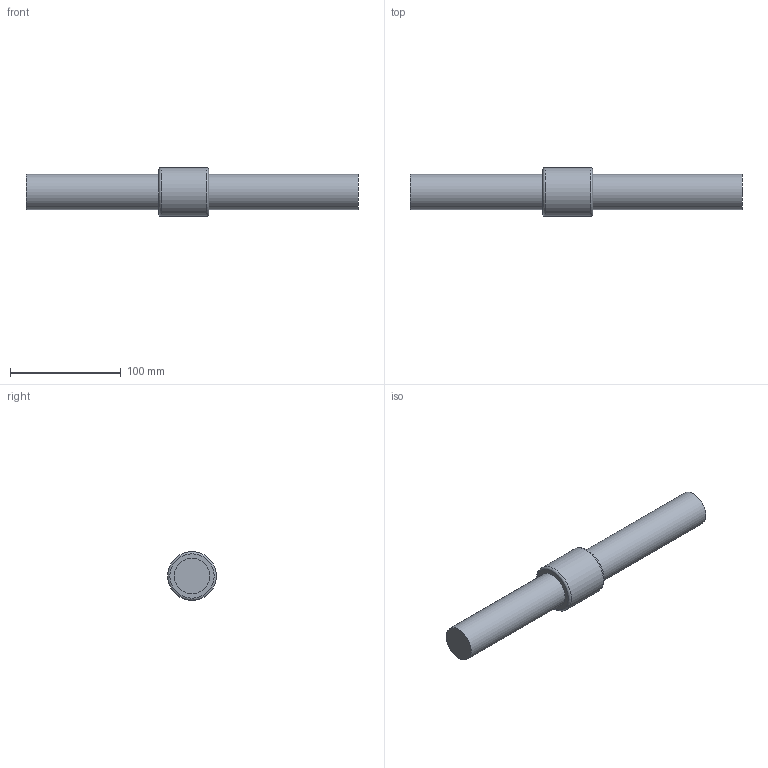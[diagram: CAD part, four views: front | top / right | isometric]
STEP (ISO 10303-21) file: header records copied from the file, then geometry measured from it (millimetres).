
FILE_DESCRIPTION((''),'2;1');
FILE_NAME('D:\製品 (図面)\カタログ用3D\ネジ関連\STEP形式\TMS\TMS32.stp','2010-06-02T15:33:39',('Tsuchiya'),(''),'Autodesk Inventor 10','Autodesk Inventor 10','');
FILE_SCHEMA(('AUTOMOTIVE_DESIGN { 1 0 10303 214 1 1 1 1 }'));
Length unit declared in the file: millimetre
Products named in the file (3): TMS32; TMS321; TMS322
Assembly tree (2 placements, depth 2):
  TMS32
    TMS321
    TMS322
Bounding box: 300 x 44 x 44 mm (x, y, z)
Volume: 273274.6 mm3; surface area: 43703.7 mm2
Topology: 2 solids, 2 shells, 9 faces, 13 edges, 8 vertices
Faces by surface type: plane 4, cylinder 3, torus 2
Full cylindrical faces by diameter (mm): 32 x2, 44 x1
Entity records: 254 total; most frequent: DIRECTION 44, CARTESIAN_POINT 30, AXIS2_PLACEMENT_3D 22, ORIENTED_EDGE 16, EDGE_LOOP 16, FACE_OUTER_BOUND 9, ADVANCED_FACE 9, VERTEX_POINT 8
